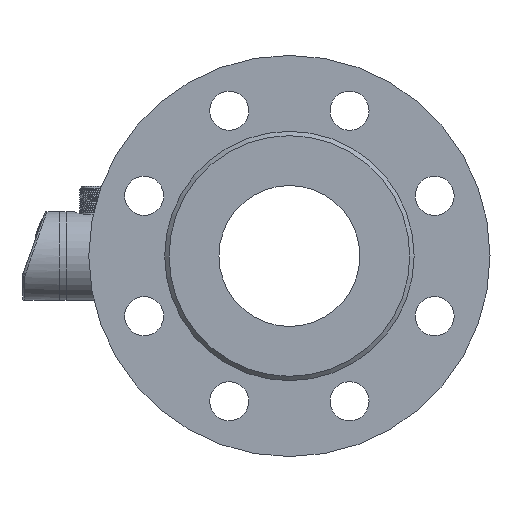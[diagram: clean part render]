
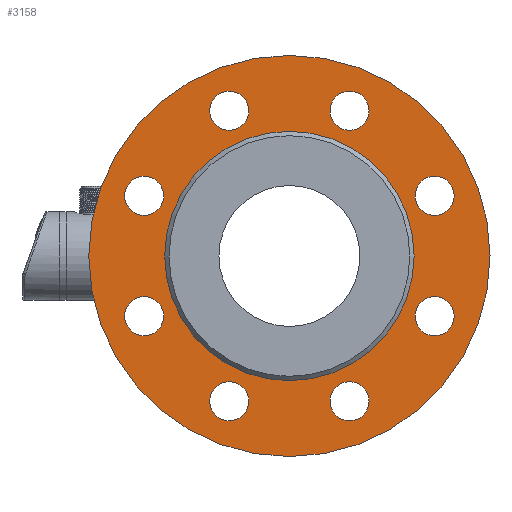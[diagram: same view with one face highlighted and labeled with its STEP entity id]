
A CAD part, front view. The second image highlights one B-rep face of the part: STEP entity #3158.
In plain terms, the highlighted planar face has unit normal (0, -1, 0).
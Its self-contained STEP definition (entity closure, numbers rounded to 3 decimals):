
#2037=PLANE('',#8627);
#3158=ADVANCED_FACE('',(#3798,#3799,#3800,#3801,#3802,#3803,#3804,#3805,
#3806,#3807),#2037,.T.);
#3798=FACE_BOUND('',#4068,.T.);
#3799=FACE_BOUND('',#4069,.T.);
#3800=FACE_BOUND('',#4070,.T.);
#3801=FACE_BOUND('',#4071,.T.);
#3802=FACE_BOUND('',#4072,.T.);
#3803=FACE_BOUND('',#4073,.T.);
#3804=FACE_BOUND('',#4074,.T.);
#3805=FACE_BOUND('',#4075,.T.);
#3806=FACE_BOUND('',#4076,.T.);
#3807=FACE_BOUND('',#4077,.T.);
#4068=EDGE_LOOP('',(#4707));
#4069=EDGE_LOOP('',(#4708));
#4070=EDGE_LOOP('',(#4709));
#4071=EDGE_LOOP('',(#4710));
#4072=EDGE_LOOP('',(#4711));
#4073=EDGE_LOOP('',(#4712));
#4074=EDGE_LOOP('',(#4713));
#4075=EDGE_LOOP('',(#4714));
#4076=EDGE_LOOP('',(#4715));
#4077=EDGE_LOOP('',(#4716));
#4707=ORIENTED_EDGE('',*,*,#7170,.F.);
#4708=ORIENTED_EDGE('',*,*,#7174,.F.);
#4709=ORIENTED_EDGE('',*,*,#7178,.F.);
#4710=ORIENTED_EDGE('',*,*,#7182,.F.);
#4711=ORIENTED_EDGE('',*,*,#7186,.F.);
#4712=ORIENTED_EDGE('',*,*,#7190,.F.);
#4713=ORIENTED_EDGE('',*,*,#7194,.F.);
#4714=ORIENTED_EDGE('',*,*,#7242,.F.);
#4715=ORIENTED_EDGE('',*,*,#7200,.F.);
#4716=ORIENTED_EDGE('',*,*,#7202,.F.);
#6520=VERTEX_POINT('',#11347);
#6524=VERTEX_POINT('',#11357);
#6528=VERTEX_POINT('',#11367);
#6532=VERTEX_POINT('',#11377);
#6536=VERTEX_POINT('',#11387);
#6540=VERTEX_POINT('',#11397);
#6544=VERTEX_POINT('',#11407);
#6550=VERTEX_POINT('',#11422);
#6552=VERTEX_POINT('',#11427);
#6582=VERTEX_POINT('',#12716);
#7170=EDGE_CURVE('',#6520,#6520,#8141,.T.);
#7174=EDGE_CURVE('',#6524,#6524,#8145,.T.);
#7178=EDGE_CURVE('',#6528,#6528,#8149,.T.);
#7182=EDGE_CURVE('',#6532,#6532,#8153,.T.);
#7186=EDGE_CURVE('',#6536,#6536,#8157,.T.);
#7190=EDGE_CURVE('',#6540,#6540,#8161,.T.);
#7194=EDGE_CURVE('',#6544,#6544,#8165,.T.);
#7200=EDGE_CURVE('',#6550,#6550,#8171,.T.);
#7202=EDGE_CURVE('',#6552,#6552,#8173,.T.);
#7242=EDGE_CURVE('',#6582,#6582,#8192,.T.);
#8141=CIRCLE('',#8542,9.);
#8145=CIRCLE('',#8548,9.);
#8149=CIRCLE('',#8554,9.);
#8153=CIRCLE('',#8560,9.);
#8157=CIRCLE('',#8566,9.);
#8161=CIRCLE('',#8572,9.);
#8165=CIRCLE('',#8578,9.);
#8171=CIRCLE('',#8587,9.);
#8173=CIRCLE('',#8590,92.5);
#8192=CIRCLE('',#8626,57.5);
#8542=AXIS2_PLACEMENT_3D('',#11346,#9353,#9354);
#8548=AXIS2_PLACEMENT_3D('',#11356,#9365,#9366);
#8554=AXIS2_PLACEMENT_3D('',#11366,#9377,#9378);
#8560=AXIS2_PLACEMENT_3D('',#11376,#9389,#9390);
#8566=AXIS2_PLACEMENT_3D('',#11386,#9401,#9402);
#8572=AXIS2_PLACEMENT_3D('',#11396,#9413,#9414);
#8578=AXIS2_PLACEMENT_3D('',#11406,#9425,#9426);
#8587=AXIS2_PLACEMENT_3D('',#11421,#9443,#9444);
#8590=AXIS2_PLACEMENT_3D('',#11426,#9449,#9450);
#8626=AXIS2_PLACEMENT_3D('',#12715,#9525,#9526);
#8627=AXIS2_PLACEMENT_3D('',#12717,#9527,#9528);
#9353=DIRECTION('',(0.,-1.,0.));
#9354=DIRECTION('',(1.,0.,0.));
#9365=DIRECTION('',(0.,-1.,0.));
#9366=DIRECTION('',(1.,0.,0.));
#9377=DIRECTION('',(0.,-1.,0.));
#9378=DIRECTION('',(1.,0.,0.));
#9389=DIRECTION('',(0.,-1.,0.));
#9390=DIRECTION('',(1.,0.,0.));
#9401=DIRECTION('',(0.,-1.,0.));
#9402=DIRECTION('',(1.,0.,0.));
#9413=DIRECTION('',(0.,-1.,0.));
#9414=DIRECTION('',(1.,0.,0.));
#9425=DIRECTION('',(0.,-1.,0.));
#9426=DIRECTION('',(1.,0.,0.));
#9443=DIRECTION('',(0.,-1.,0.));
#9444=DIRECTION('',(1.,0.,0.));
#9449=DIRECTION('',(0.,1.,0.));
#9450=DIRECTION('',(1.,0.,0.));
#9525=DIRECTION('',(0.,-1.,0.));
#9526=DIRECTION('',(1.,0.,0.));
#9527=DIRECTION('',(0.,-1.,0.));
#9528=DIRECTION('',(1.,0.,0.));
#11346=CARTESIAN_POINT('',(27.745,-179.1,-66.981));
#11347=CARTESIAN_POINT('',(36.745,-179.1,-66.981));
#11356=CARTESIAN_POINT('',(66.981,-179.1,-27.745));
#11357=CARTESIAN_POINT('',(75.981,-179.1,-27.745));
#11366=CARTESIAN_POINT('',(66.981,-179.1,27.745));
#11367=CARTESIAN_POINT('',(75.981,-179.1,27.745));
#11376=CARTESIAN_POINT('',(27.745,-179.1,66.981));
#11377=CARTESIAN_POINT('',(36.745,-179.1,66.981));
#11386=CARTESIAN_POINT('',(-27.745,-179.1,66.981));
#11387=CARTESIAN_POINT('',(-18.745,-179.1,66.981));
#11396=CARTESIAN_POINT('',(-66.981,-179.1,27.745));
#11397=CARTESIAN_POINT('',(-57.981,-179.1,27.745));
#11406=CARTESIAN_POINT('',(-66.981,-179.1,-27.745));
#11407=CARTESIAN_POINT('',(-57.981,-179.1,-27.745));
#11421=CARTESIAN_POINT('',(-27.745,-179.1,-66.981));
#11422=CARTESIAN_POINT('',(-18.745,-179.1,-66.981));
#11426=CARTESIAN_POINT('',(0.,-179.1,0.));
#11427=CARTESIAN_POINT('',(92.5,-179.1,0.));
#12715=CARTESIAN_POINT('',(0.,-179.1,0.));
#12716=CARTESIAN_POINT('',(57.5,-179.1,0.));
#12717=CARTESIAN_POINT('',(0.,-179.1,0.));
